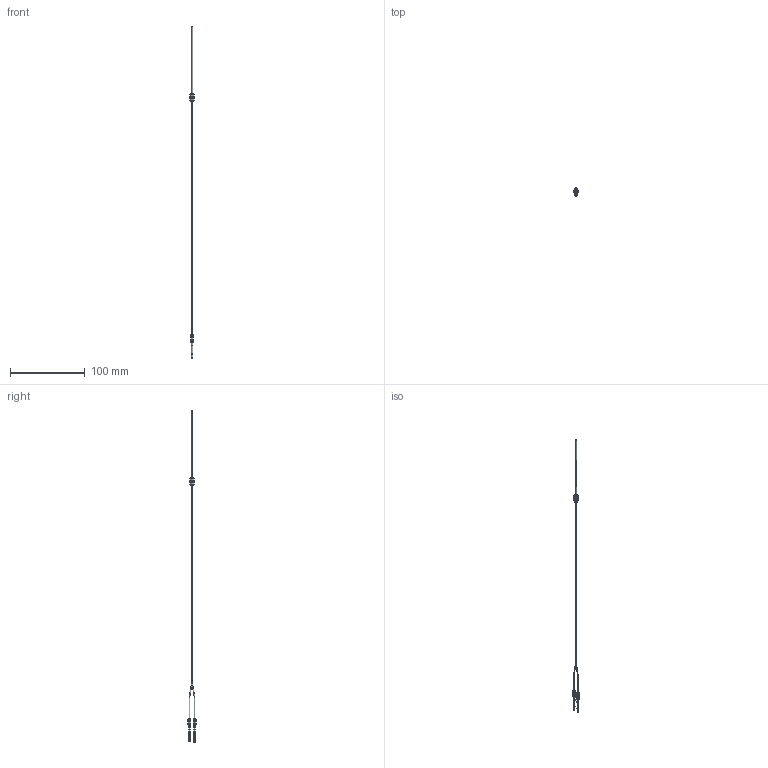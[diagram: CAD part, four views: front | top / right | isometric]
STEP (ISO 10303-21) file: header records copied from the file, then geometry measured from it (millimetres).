
FILE_DESCRIPTION (( 'STEP AP214' ), '1' );
FILE_NAME ('FDS-320-05.STEP', '2019-06-18T02:30:02', ( '' ), ( '' ), 'SwSTEP 2.0', 'SolidWorks 2018', '' );
FILE_SCHEMA (( 'AUTOMOTIVE_DESIGN' ));
Length unit declared in the file: millimetre
Products named in the file (1): FDS-320-05
Bounding box: 6.5 x 11 x 444.01 mm (x, y, z)
Volume: 1187.9 mm3; surface area: 3880.3 mm2
Topology: 7 solids, 7 shells, 392 faces, 984 edges, 620 vertices
Faces by surface type: cylinder 162, plane 158, cone 43, torus 20, bspline 9
Entity records: 18492 total; most frequent: CARTESIAN_POINT 8842, ORIENTED_EDGE 1968, DIRECTION 1779, EDGE_CURVE 984, AXIS2_PLACEMENT_3D 705, VERTEX_POINT 620, EDGE_LOOP 418, ADVANCED_FACE 392
